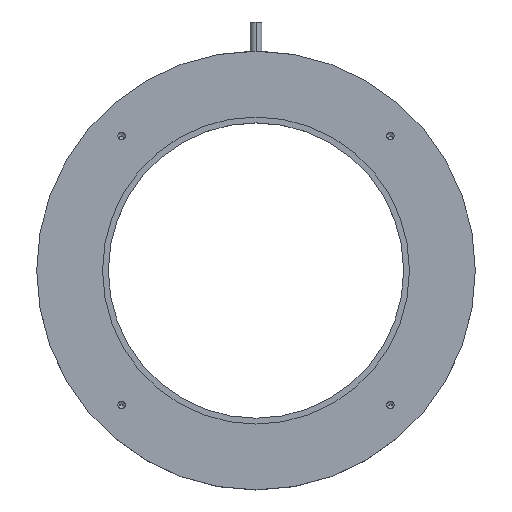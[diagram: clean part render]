
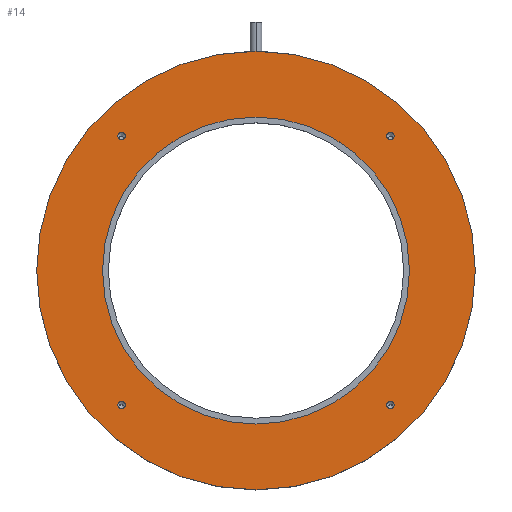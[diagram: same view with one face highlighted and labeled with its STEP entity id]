
A CAD part, top view. The second image highlights one B-rep face of the part: STEP entity #14.
In plain terms, the highlighted planar face has unit normal (0, 0, 1).
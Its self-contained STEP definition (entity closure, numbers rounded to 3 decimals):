
#5 = CIRCLE ( 'NONE', #107, 1.25 ) ;
#14 = ADVANCED_FACE ( 'NONE', ( #488, #335, #710, #57, #69, #605 ), #696, .T. ) ;
#15 = CARTESIAN_POINT ( 'NONE',  ( -75., 0., 25. ) ) ;
#43 = DIRECTION ( 'NONE',  ( 0., 0., 1. ) ) ;
#49 = AXIS2_PLACEMENT_3D ( 'NONE', #133, #263, #407 ) ;
#57 = FACE_BOUND ( 'NONE', #810, .T. ) ;
#60 = EDGE_CURVE ( 'NONE', #798, #653, #530, .T. ) ;
#69 = FACE_BOUND ( 'NONE', #545, .T. ) ;
#73 = AXIS2_PLACEMENT_3D ( 'NONE', #300, #162, #648 ) ;
#77 = CIRCLE ( 'NONE', #331, 1.25 ) ;
#78 = CARTESIAN_POINT ( 'NONE',  ( 47.212, 45.962, 25. ) ) ;
#82 = EDGE_LOOP ( 'NONE', ( #319, #221 ) ) ;
#99 = CARTESIAN_POINT ( 'NONE',  ( -44.712, 45.962, 25. ) ) ;
#107 = AXIS2_PLACEMENT_3D ( 'NONE', #839, #844, #538 ) ;
#109 = DIRECTION ( 'NONE',  ( 1., 0., 0. ) ) ;
#111 = EDGE_CURVE ( 'NONE', #653, #798, #241, .T. ) ;
#119 = DIRECTION ( 'NONE',  ( 0., 0., 1. ) ) ;
#133 = CARTESIAN_POINT ( 'NONE',  ( 45.962, -45.962, 25. ) ) ;
#139 = CARTESIAN_POINT ( 'NONE',  ( 0., 0., 25. ) ) ;
#142 = DIRECTION ( 'NONE',  ( 1., 0., 0. ) ) ;
#162 = DIRECTION ( 'NONE',  ( 0., 0., 1. ) ) ;
#171 = CARTESIAN_POINT ( 'NONE',  ( 52.5, 0., 25. ) ) ;
#180 = DIRECTION ( 'NONE',  ( 1., 0., 0. ) ) ;
#181 = VERTEX_POINT ( 'NONE', #78 ) ;
#184 = EDGE_CURVE ( 'NONE', #355, #611, #227, .T. ) ;
#186 = CIRCLE ( 'NONE', #392, 52.5 ) ;
#196 = EDGE_CURVE ( 'NONE', #699, #528, #259, .T. ) ;
#198 = AXIS2_PLACEMENT_3D ( 'NONE', #139, #758, #921 ) ;
#206 = AXIS2_PLACEMENT_3D ( 'NONE', #853, #278, #546 ) ;
#212 = CARTESIAN_POINT ( 'NONE',  ( 47.212, -45.962, 25. ) ) ;
#216 = CIRCLE ( 'NONE', #73, 1.25 ) ;
#220 = DIRECTION ( 'NONE',  ( 0., 0., 1. ) ) ;
#221 = ORIENTED_EDGE ( 'NONE', *, *, #485, .T. ) ;
#227 = CIRCLE ( 'NONE', #895, 1.25 ) ;
#240 = EDGE_LOOP ( 'NONE', ( #419, #251 ) ) ;
#241 = CIRCLE ( 'NONE', #273, 1.25 ) ;
#251 = ORIENTED_EDGE ( 'NONE', *, *, #789, .F. ) ;
#255 = AXIS2_PLACEMENT_3D ( 'NONE', #727, #119, #180 ) ;
#259 = CIRCLE ( 'NONE', #206, 75. ) ;
#263 = DIRECTION ( 'NONE',  ( 0., 0., 1. ) ) ;
#273 = AXIS2_PLACEMENT_3D ( 'NONE', #700, #851, #423 ) ;
#278 = DIRECTION ( 'NONE',  ( 0., 0., 1. ) ) ;
#291 = EDGE_CURVE ( 'NONE', #327, #902, #216, .T. ) ;
#300 = CARTESIAN_POINT ( 'NONE',  ( -45.962, 45.962, 25. ) ) ;
#303 = CARTESIAN_POINT ( 'NONE',  ( 44.712, 45.962, 25. ) ) ;
#304 = CARTESIAN_POINT ( 'NONE',  ( -44.712, -45.962, 25. ) ) ;
#309 = DIRECTION ( 'NONE',  ( 0., 0., 1. ) ) ;
#319 = ORIENTED_EDGE ( 'NONE', *, *, #196, .T. ) ;
#326 = ORIENTED_EDGE ( 'NONE', *, *, #111, .F. ) ;
#327 = VERTEX_POINT ( 'NONE', #99 ) ;
#331 = AXIS2_PLACEMENT_3D ( 'NONE', #905, #464, #759 ) ;
#335 = FACE_BOUND ( 'NONE', #410, .T. ) ;
#348 = VERTEX_POINT ( 'NONE', #303 ) ;
#355 = VERTEX_POINT ( 'NONE', #304 ) ;
#386 = CARTESIAN_POINT ( 'NONE',  ( 0., 0., 25. ) ) ;
#392 = AXIS2_PLACEMENT_3D ( 'NONE', #386, #43, #441 ) ;
#394 = VERTEX_POINT ( 'NONE', #171 ) ;
#397 = EDGE_CURVE ( 'NONE', #394, #439, #186, .T. ) ;
#400 = CARTESIAN_POINT ( 'NONE',  ( 44.712, -45.962, 25. ) ) ;
#407 = DIRECTION ( 'NONE',  ( 1., 0., 0. ) ) ;
#409 = AXIS2_PLACEMENT_3D ( 'NONE', #867, #561, #591 ) ;
#410 = EDGE_LOOP ( 'NONE', ( #896, #714 ) ) ;
#419 = ORIENTED_EDGE ( 'NONE', *, *, #291, .F. ) ;
#420 = CARTESIAN_POINT ( 'NONE',  ( -45.962, -45.962, 25. ) ) ;
#423 = DIRECTION ( 'NONE',  ( 1., 0., 0. ) ) ;
#432 = CIRCLE ( 'NONE', #409, 52.5 ) ;
#438 = EDGE_CURVE ( 'NONE', #181, #348, #549, .T. ) ;
#439 = VERTEX_POINT ( 'NONE', #669 ) ;
#441 = DIRECTION ( 'NONE',  ( 1., 0., 0. ) ) ;
#455 = ORIENTED_EDGE ( 'NONE', *, *, #397, .F. ) ;
#464 = DIRECTION ( 'NONE',  ( 0., 0., 1. ) ) ;
#484 = CARTESIAN_POINT ( 'NONE',  ( -45.962, -45.962, 25. ) ) ;
#485 = EDGE_CURVE ( 'NONE', #528, #699, #904, .T. ) ;
#488 = FACE_BOUND ( 'NONE', #240, .T. ) ;
#515 = ORIENTED_EDGE ( 'NONE', *, *, #184, .F. ) ;
#528 = VERTEX_POINT ( 'NONE', #811 ) ;
#530 = CIRCLE ( 'NONE', #49, 1.25 ) ;
#533 = EDGE_CURVE ( 'NONE', #611, #355, #609, .T. ) ;
#538 = DIRECTION ( 'NONE',  ( 1., 0., 0. ) ) ;
#545 = EDGE_LOOP ( 'NONE', ( #455, #596 ) ) ;
#546 = DIRECTION ( 'NONE',  ( 1., 0., 0. ) ) ;
#549 = CIRCLE ( 'NONE', #255, 1.25 ) ;
#561 = DIRECTION ( 'NONE',  ( 0., 0., 1. ) ) ;
#591 = DIRECTION ( 'NONE',  ( 1., 0., 0. ) ) ;
#596 = ORIENTED_EDGE ( 'NONE', *, *, #829, .F. ) ;
#604 = EDGE_LOOP ( 'NONE', ( #326, #695 ) ) ;
#605 = FACE_OUTER_BOUND ( 'NONE', #82, .T. ) ;
#609 = CIRCLE ( 'NONE', #751, 1.25 ) ;
#611 = VERTEX_POINT ( 'NONE', #634 ) ;
#634 = CARTESIAN_POINT ( 'NONE',  ( -47.212, -45.962, 25. ) ) ;
#648 = DIRECTION ( 'NONE',  ( 1., 0., 0. ) ) ;
#653 = VERTEX_POINT ( 'NONE', #212 ) ;
#669 = CARTESIAN_POINT ( 'NONE',  ( -52.5, 0., 25. ) ) ;
#695 = ORIENTED_EDGE ( 'NONE', *, *, #60, .F. ) ;
#696 = PLANE ( 'NONE',  #198 ) ;
#699 = VERTEX_POINT ( 'NONE', #15 ) ;
#700 = CARTESIAN_POINT ( 'NONE',  ( 45.962, -45.962, 25. ) ) ;
#710 = FACE_BOUND ( 'NONE', #604, .T. ) ;
#714 = ORIENTED_EDGE ( 'NONE', *, *, #780, .F. ) ;
#727 = CARTESIAN_POINT ( 'NONE',  ( 45.962, 45.962, 25. ) ) ;
#733 = CARTESIAN_POINT ( 'NONE',  ( 0., 0., 25. ) ) ;
#742 = CARTESIAN_POINT ( 'NONE',  ( -47.212, 45.962, 25. ) ) ;
#748 = AXIS2_PLACEMENT_3D ( 'NONE', #733, #309, #109 ) ;
#751 = AXIS2_PLACEMENT_3D ( 'NONE', #484, #857, #854 ) ;
#758 = DIRECTION ( 'NONE',  ( 0., 0., 1. ) ) ;
#759 = DIRECTION ( 'NONE',  ( 1., 0., 0. ) ) ;
#767 = ORIENTED_EDGE ( 'NONE', *, *, #533, .F. ) ;
#780 = EDGE_CURVE ( 'NONE', #348, #181, #5, .T. ) ;
#789 = EDGE_CURVE ( 'NONE', #902, #327, #77, .T. ) ;
#798 = VERTEX_POINT ( 'NONE', #400 ) ;
#810 = EDGE_LOOP ( 'NONE', ( #515, #767 ) ) ;
#811 = CARTESIAN_POINT ( 'NONE',  ( 75., 0., 25. ) ) ;
#829 = EDGE_CURVE ( 'NONE', #439, #394, #432, .T. ) ;
#839 = CARTESIAN_POINT ( 'NONE',  ( 45.962, 45.962, 25. ) ) ;
#844 = DIRECTION ( 'NONE',  ( 0., 0., 1. ) ) ;
#851 = DIRECTION ( 'NONE',  ( 0., 0., 1. ) ) ;
#853 = CARTESIAN_POINT ( 'NONE',  ( 0., 0., 25. ) ) ;
#854 = DIRECTION ( 'NONE',  ( 1., 0., 0. ) ) ;
#857 = DIRECTION ( 'NONE',  ( 0., 0., 1. ) ) ;
#867 = CARTESIAN_POINT ( 'NONE',  ( 0., 0., 25. ) ) ;
#895 = AXIS2_PLACEMENT_3D ( 'NONE', #420, #220, #142 ) ;
#896 = ORIENTED_EDGE ( 'NONE', *, *, #438, .F. ) ;
#902 = VERTEX_POINT ( 'NONE', #742 ) ;
#904 = CIRCLE ( 'NONE', #748, 75. ) ;
#905 = CARTESIAN_POINT ( 'NONE',  ( -45.962, 45.962, 25. ) ) ;
#921 = DIRECTION ( 'NONE',  ( 1., 0., 0. ) ) ;
